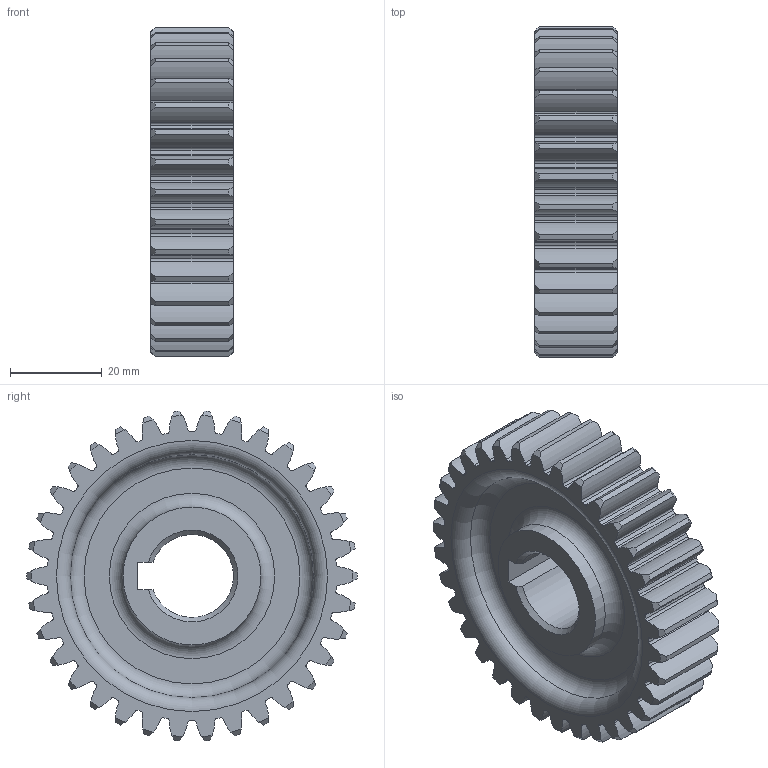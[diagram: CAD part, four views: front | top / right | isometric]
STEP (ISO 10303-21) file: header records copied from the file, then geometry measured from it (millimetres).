
FILE_DESCRIPTION(/* description */ (''),/* implementation_level */ '2;1');
FILE_NAME(/* name */ '',/* time_stamp */ '2025-07-11T16:47:55+09:00',/* author */ ('jhkim'),/* organization */ (''),/* preprocessor_version */ 'ST-DEVELOPER v20.1',/* originating_system */ 'Autodesk Inventor 2026',/* authorisation */ '');
FILE_SCHEMA (('AUTOMOTIVE_DESIGN { 1 0 10303 214 3 1 1 }'));
Length unit declared in the file: millimetre
Products named in the file (1): 스퍼기어
Bounding box: 18 x 72 x 71.79 mm (x, y, z)
Volume: 42021.2 mm3; surface area: 17135.5 mm2
Topology: 1 solids, 1 shells, 292 faces, 856 edges, 570 vertices
Faces by surface type: cylinder 207, cone 70, plane 9, torus 6
Full cylindrical faces by diameter (mm): 30 x2
Entity records: 10163 total; most frequent: CARTESIAN_POINT 2135, DIRECTION 1802, ORIENTED_EDGE 1712, EDGE_CURVE 856, AXIS2_PLACEMENT_3D 793, VERTEX_POINT 570, CIRCLE 500, EDGE_LOOP 298
